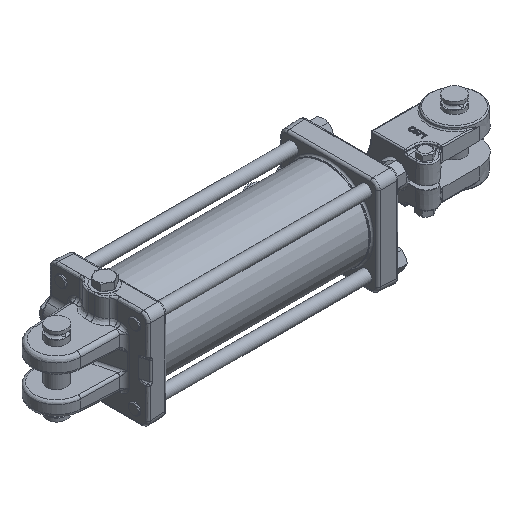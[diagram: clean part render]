
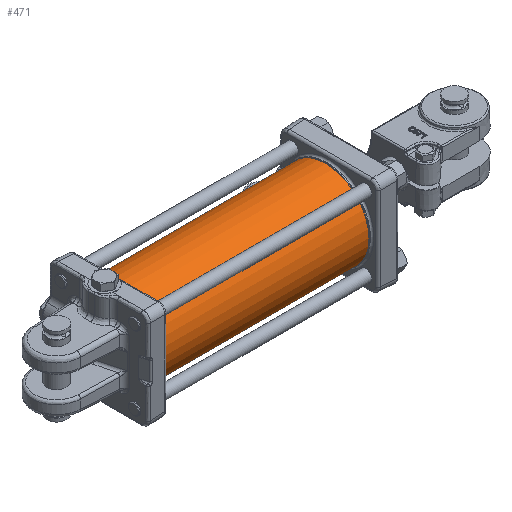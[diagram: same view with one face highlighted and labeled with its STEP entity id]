
A CAD part, isometric view. The second image highlights one B-rep face of the part: STEP entity #471.
In plain terms, the highlighted cylindrical face has radius 55.562 mm (diameter 111.125 mm), a full revolution.
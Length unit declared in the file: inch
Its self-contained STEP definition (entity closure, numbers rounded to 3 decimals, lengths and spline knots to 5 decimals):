
#210=CARTESIAN_POINT('',(-0.967,2.18682,0.0545));
#211=VERTEX_POINT('',#210);
#212=CARTESIAN_POINT('',(-0.967,2.18682,0.0545));
#213=CARTESIAN_POINT('',(-0.97384,2.18682,0.0545));
#214=CARTESIAN_POINT('',(-0.98114,2.18686,0.05313));
#215=CARTESIAN_POINT('',(-0.99457,2.18698,0.04757));
#216=CARTESIAN_POINT('',(-1.0007,2.18708,0.04338));
#217=CARTESIAN_POINT('',(-1.01038,2.18725,0.0337));
#218=CARTESIAN_POINT('',(-1.01457,2.18734,0.02757));
#219=CARTESIAN_POINT('',(-1.02013,2.18746,0.01414));
#220=CARTESIAN_POINT('',(-1.0215,2.1875,0.00684));
#221=CARTESIAN_POINT('',(-1.0215,2.1875,-0.00684));
#222=CARTESIAN_POINT('',(-1.02013,2.18746,-0.01414));
#223=CARTESIAN_POINT('',(-1.01457,2.18734,-0.02757));
#224=CARTESIAN_POINT('',(-1.01038,2.18725,-0.0337));
#225=CARTESIAN_POINT('',(-1.0007,2.18708,-0.04338));
#226=CARTESIAN_POINT('',(-0.99457,2.18698,-0.04757));
#227=CARTESIAN_POINT('',(-0.98114,2.18686,-0.05313));
#228=CARTESIAN_POINT('',(-0.97384,2.18682,-0.0545));
#229=CARTESIAN_POINT('',(-0.96016,2.18682,-0.0545));
#230=CARTESIAN_POINT('',(-0.95286,2.18686,-0.05313));
#231=CARTESIAN_POINT('',(-0.93943,2.18698,-0.04757));
#232=CARTESIAN_POINT('',(-0.9333,2.18708,-0.04338));
#233=CARTESIAN_POINT('',(-0.92362,2.18725,-0.0337));
#234=CARTESIAN_POINT('',(-0.91943,2.18734,-0.02757));
#235=CARTESIAN_POINT('',(-0.91387,2.18746,-0.01414));
#236=CARTESIAN_POINT('',(-0.9125,2.1875,-0.00684));
#237=CARTESIAN_POINT('',(-0.9125,2.1875,0.00684));
#238=CARTESIAN_POINT('',(-0.91387,2.18746,0.01414));
#239=CARTESIAN_POINT('',(-0.91943,2.18734,0.02757));
#240=CARTESIAN_POINT('',(-0.92362,2.18725,0.0337));
#241=CARTESIAN_POINT('',(-0.9333,2.18708,0.04338));
#242=CARTESIAN_POINT('',(-0.93943,2.18698,0.04757));
#243=CARTESIAN_POINT('',(-0.95286,2.18686,0.05313));
#244=CARTESIAN_POINT('',(-0.96016,2.18682,0.0545));
#245=CARTESIAN_POINT('',(-0.967,2.18682,0.0545));
#246=B_SPLINE_CURVE_WITH_KNOTS('',3,(#212,#213,#214,#215,#216,#217,#218,#219,#220,#221,#222,#223,#224,#225,#226,#227,#228,#229,#230,#231,#232,#233,#234,#235,#236,#237,#238,#239,#240,#241,#242,#243,#244,#245),.UNSPECIFIED.,.T.,.U.,(4,2,2,2,2,2,2,2,2,2,2,2,2,2,2,2,4),(0.0,0.05215,0.10429,0.15644,0.20859,0.26074,0.31288,0.36503,0.41718,0.46932,0.52147,0.57362,0.62576,0.67791,0.73006,0.78221,0.83435),.UNSPECIFIED.);
#247=EDGE_CURVE('',#211,#211,#246,.T.);
#298=CARTESIAN_POINT('',(-1.347,2.18728,0.031));
#299=VERTEX_POINT('',#298);
#300=CARTESIAN_POINT('',(-1.347,2.18728,0.031));
#301=CARTESIAN_POINT('',(-1.35089,2.18728,0.031));
#302=CARTESIAN_POINT('',(-1.35504,2.18729,0.03022));
#303=CARTESIAN_POINT('',(-1.36268,2.18733,0.02706));
#304=CARTESIAN_POINT('',(-1.36617,2.18736,0.02467));
#305=CARTESIAN_POINT('',(-1.37167,2.18742,0.01917));
#306=CARTESIAN_POINT('',(-1.37406,2.18745,0.01568));
#307=CARTESIAN_POINT('',(-1.37722,2.18749,0.00804));
#308=CARTESIAN_POINT('',(-1.378,2.1875,0.00389));
#309=CARTESIAN_POINT('',(-1.378,2.1875,-0.00389));
#310=CARTESIAN_POINT('',(-1.37722,2.18749,-0.00804));
#311=CARTESIAN_POINT('',(-1.37406,2.18745,-0.01568));
#312=CARTESIAN_POINT('',(-1.37167,2.18742,-0.01917));
#313=CARTESIAN_POINT('',(-1.36617,2.18736,-0.02467));
#314=CARTESIAN_POINT('',(-1.36268,2.18733,-0.02706));
#315=CARTESIAN_POINT('',(-1.35504,2.18729,-0.03022));
#316=CARTESIAN_POINT('',(-1.35089,2.18728,-0.031));
#317=CARTESIAN_POINT('',(-1.34311,2.18728,-0.031));
#318=CARTESIAN_POINT('',(-1.33896,2.18729,-0.03022));
#319=CARTESIAN_POINT('',(-1.33132,2.18733,-0.02706));
#320=CARTESIAN_POINT('',(-1.32783,2.18736,-0.02467));
#321=CARTESIAN_POINT('',(-1.32233,2.18742,-0.01917));
#322=CARTESIAN_POINT('',(-1.31994,2.18745,-0.01568));
#323=CARTESIAN_POINT('',(-1.31678,2.18749,-0.00804));
#324=CARTESIAN_POINT('',(-1.316,2.1875,-0.00389));
#325=CARTESIAN_POINT('',(-1.316,2.1875,0.00389));
#326=CARTESIAN_POINT('',(-1.31678,2.18749,0.00804));
#327=CARTESIAN_POINT('',(-1.31994,2.18745,0.01568));
#328=CARTESIAN_POINT('',(-1.32233,2.18742,0.01917));
#329=CARTESIAN_POINT('',(-1.32783,2.18736,0.02467));
#330=CARTESIAN_POINT('',(-1.33132,2.18733,0.02706));
#331=CARTESIAN_POINT('',(-1.33896,2.18729,0.03022));
#332=CARTESIAN_POINT('',(-1.34311,2.18728,0.031));
#333=CARTESIAN_POINT('',(-1.347,2.18728,0.031));
#334=B_SPLINE_CURVE_WITH_KNOTS('',3,(#300,#301,#302,#303,#304,#305,#306,#307,#308,#309,#310,#311,#312,#313,#314,#315,#316,#317,#318,#319,#320,#321,#322,#323,#324,#325,#326,#327,#328,#329,#330,#331,#332,#333),.UNSPECIFIED.,.T.,.U.,(4,2,2,2,2,2,2,2,2,2,2,2,2,2,2,2,4),(0.0,0.02966,0.05932,0.08898,0.11864,0.1483,0.17796,0.20763,0.23729,0.26695,0.29661,0.32627,0.35593,0.38559,0.41525,0.44491,0.47457),.UNSPECIFIED.);
#335=EDGE_CURVE('',#299,#299,#334,.T.);
#345=CARTESIAN_POINT('',(0.,2.1875,0.0));
#346=VERTEX_POINT('',#345);
#347=CARTESIAN_POINT('',(0.,0.0,0.0));
#348=DIRECTION('',(1.0,0.0,0.0));
#349=DIRECTION('',(0.0,1.0,0.0));
#350=AXIS2_PLACEMENT_3D('',#347,#348,#349);
#351=CIRCLE('',#350,2.1875);
#352=EDGE_CURVE('',#346,#346,#351,.T.);
#439=CARTESIAN_POINT('',(-10.468,2.1875,0.0));
#440=VERTEX_POINT('',#439);
#441=CARTESIAN_POINT('',(-10.468,0.0,0.0));
#442=DIRECTION('',(1.0,0.0,0.0));
#443=DIRECTION('',(0.0,1.0,0.0));
#444=AXIS2_PLACEMENT_3D('',#441,#442,#443);
#445=CIRCLE('',#444,2.1875);
#446=EDGE_CURVE('',#440,#440,#445,.T.);
#454=CARTESIAN_POINT('',(-5.234,0.0,0.0));
#455=DIRECTION('',(1.0,0.0,0.0));
#456=DIRECTION('',(0.0,1.0,0.0));
#457=AXIS2_PLACEMENT_3D('',#454,#455,#456);
#458=CYLINDRICAL_SURFACE('',#457,2.1875);
#459=ORIENTED_EDGE('',*,*,#352,.F.);
#460=EDGE_LOOP('',(#459));
#461=FACE_OUTER_BOUND('',#460,.T.);
#462=ORIENTED_EDGE('',*,*,#247,.T.);
#463=EDGE_LOOP('',(#462));
#464=FACE_BOUND('',#463,.T.);
#465=ORIENTED_EDGE('',*,*,#335,.T.);
#466=EDGE_LOOP('',(#465));
#467=FACE_BOUND('',#466,.T.);
#468=ORIENTED_EDGE('',*,*,#446,.T.);
#469=EDGE_LOOP('',(#468));
#470=FACE_BOUND('',#469,.T.);
#471=ADVANCED_FACE('',(#461,#464,#467,#470),#458,.T.);
